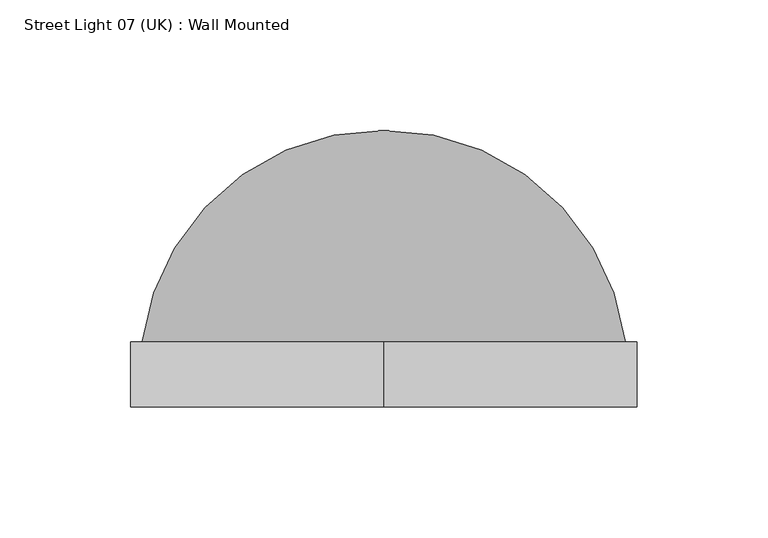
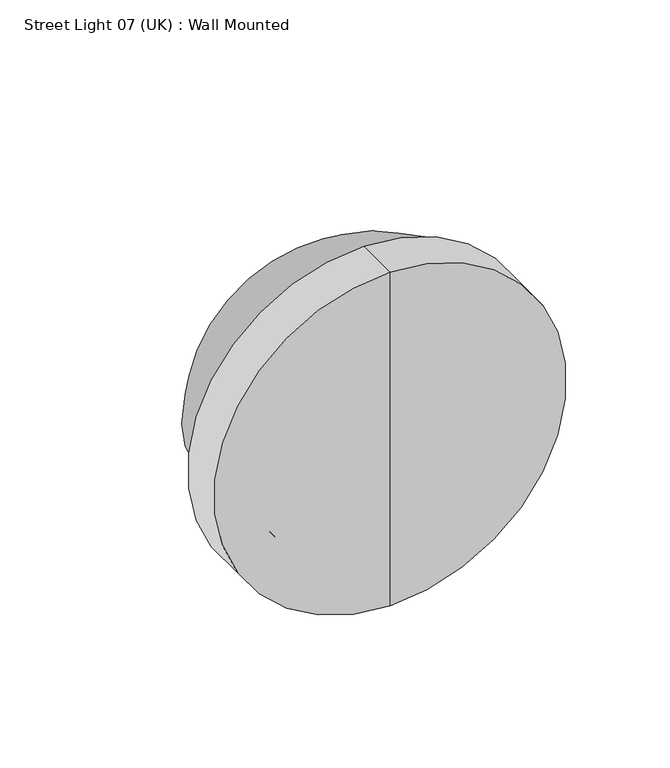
"""IFC4 building model written with IfcOpenShell, lengths in millimetres: light fixture geometry, Street Light 07 (UK) : Wall Mounted."""

from ifc_helpers import new_model, si_unit, point, frame, origin, place, context, project, spatial, polyline, circle_curve, ellipse_curve, trimmed, source, transform, mapped, element, save
from ifc_brep_helpers import plane_surface, cylinder_surface, revolved_surface, advanced_brep


def street_light_07_uk_wall_mounted_de2312fa(model_context):
    return source(origin(), model_context, "Body", "AdvancedBrep", [
        advanced_brep(
        [(211.608148, 100.0, 2278.6607917), (125.0, 175.1695134, 2278.6607917), (125.0, 180.9435974, 2278.6607917), (217.429795, 100.0, 2278.6607917), (38.391852, 100.0, 2278.6607917), (32.570205, 100.0, 2278.6607917)],
        [
            (0, 1, circle_curve(frame((125.7582507, 88.5646846, 2278.6607917), z_axis=(0.0, 0.0, 1.0), x_axis=(0.0, 1.0, 0.0)), 86.608148)),
            (1, 2),
            (2, 3, circle_curve(frame((125.7582507, 88.5646846, 2278.6607917), z_axis=(0.0, 0.0, -1.0), x_axis=(0.0, 1.0, 0.0)), 92.3820245)),
            (3, 0),
            (4, 5),
            (5, 2, circle_curve(frame((124.2417493, 88.5646846, 2278.6607917), z_axis=(0.0, 0.0, -1.0), x_axis=(0.0, 1.0, 0.0)), 92.3820245)),
            (1, 4, circle_curve(frame((124.2417493, 88.5646846, 2278.6607917), z_axis=(0.0, 0.0, 1.0), x_axis=(0.0, 1.0, 0.0)), 86.608148)),
            (0, 4, circle_curve(frame((125.0, 100.0, 2278.6607917), z_axis=(0.0, -1.0, 0.0), x_axis=(1.0, 0.0, 0.0)), 86.608148)),
            (5, 3, circle_curve(frame((125.0, 100.0, 2278.6607917), z_axis=(0.0, 1.0, 0.0), x_axis=(1.0, 0.0, 0.0)), 92.429795)),
        ],
        [
            plane_surface(frame((125.0, -90.0, 2278.6607917), z_axis=(0.0, 0.0, -1.0), x_axis=(1.0, 0.0, 0.0))),
            plane_surface(frame((125.0, -90.0, 2278.6607917), z_axis=(0.0, 0.0, -1.0), x_axis=(-1.0, 0.0, 0.0))),
            revolved_surface(trimmed(ellipse_curve(frame((125.7582507, 88.5646846, 2278.6607917), z_axis=(0.0, 0.0, -1.0), x_axis=(0.0, 1.0, 0.0)), 86.608148, 86.608148), [point((125.0, 175.1695134, 2278.6607917))], [point((211.608148, 100.0, 2278.6607917))], True, "CARTESIAN"), (125.0, -90.0, 2278.6607917), (0.0, 1.0, 0.0)),
            revolved_surface(trimmed(ellipse_curve(frame((125.7582507, 88.5646846, 2278.6607917), z_axis=(0.0, 0.0, 1.0), x_axis=(0.0, 1.0, 0.0)), 92.3820245, 92.3820245), [point((217.429795, 100.0, 2278.6607917))], [point((125.0, 180.9435974, 2278.6607917))], True, "CARTESIAN"), (125.0, -90.0, 2278.6607917), (0.0, 1.0, 0.0)),
            plane_surface(frame((125.0, 100.0, 2278.6607917), z_axis=(0.0, -1.0, 0.0), x_axis=(1.0, 0.0, 0.0))),
        ],
        [
            (0, [[1, 2, 3, 4]]),
            (1, [[5, 6, -2, 7]]),
            (2, [[-1, 8, -7]]),
            (3, [[9, -3, -6]]),
            (4, [[-8, -4, -9, -5]]),
        ],
    ),
        advanced_brep(
        [(125.0, 80.0, 2278.6607917), (125.0, 80.0, 2209.1171623), (125.0, 80.0, 2348.2044211), (125.0, 161.9119127, 2278.6607917)],
        [
            (0, 1),
            (1, 2, circle_curve(frame((125.0, 80.0, 2278.6607917), z_axis=(0.0, -1.0, 0.0), x_axis=(0.0, 0.0, -1.0)), 69.5436294)),
            (2, 0),
            (2, 1, circle_curve(frame((125.0, 80.0, 2278.6607917), z_axis=(0.0, -1.0, 0.0), x_axis=(0.0, 0.0, -1.0)), 69.5436294)),
            (1, 3, circle_curve(frame((125.0, 30.3155672, 2350.6496926), z_axis=(1.0, 0.0, 0.0), x_axis=(0.0, 1.0, 0.0)), 150.0)),
            (3, 2, circle_curve(frame((125.0, 30.3155672, 2206.6718908), z_axis=(1.0, 0.0, 0.0), x_axis=(0.0, 1.0, 0.0)), 150.0)),
        ],
        [
            plane_surface(frame((125.0, 80.0, 2278.6607917), z_axis=(0.0, -1.0, 0.0), x_axis=(0.0, 0.0, -1.0))),
            revolved_surface(trimmed(ellipse_curve(frame((125.0, 30.3155672, 2350.6496926), z_axis=(-1.0, 0.0, 0.0), x_axis=(0.0, 1.0, 0.0)), 150.0, 150.0), [point((125.0, 161.9119127, 2278.6607917))], [point((125.0, 80.0, 2209.1171623))], True, "CARTESIAN"), (125.0, -220.0, 2278.6607917), (0.0, -1.0, 0.0)),
        ],
        [
            (0, [[1, 2, 3]]),
            (0, [[-3, 4, -1]]),
            (1, [[-2, 5, 6]]),
            (1, [[-4, -6, -5]]),
        ],
    ),
        advanced_brep(
        [(125.0, 75.0, 2278.6607917), (125.0, 75.0, 2181.1607917), (125.0, 75.0, 2376.1607917), (125.0, 80.0, 2351.1607917), (125.0, 80.0, 2206.1607917), (125.0, 80.0, 2278.6607917), (125.0, 100.0, 2351.1607917), (125.0, 100.0, 2206.1607917), (125.0, 100.0, 2376.1607917), (125.0, 100.0, 2181.1607917)],
        [
            (0, 1),
            (1, 2, circle_curve(frame((125.0, 75.0, 2278.6607917), z_axis=(0.0, -1.0, 0.0), x_axis=(0.0, 0.0, -1.0)), 97.5)),
            (2, 0),
            (2, 1, circle_curve(frame((125.0, 75.0, 2278.6607917), z_axis=(0.0, -1.0, 0.0), x_axis=(0.0, 0.0, -1.0)), 97.5)),
            (3, 4, circle_curve(frame((125.0, 80.0, 2278.6607917), z_axis=(0.0, 1.0, 0.0), x_axis=(0.0, 0.0, -1.0)), 72.5)),
            (4, 5),
            (5, 3),
            (4, 3, circle_curve(frame((125.0, 80.0, 2278.6607917), z_axis=(0.0, 1.0, 0.0), x_axis=(0.0, 0.0, -1.0)), 72.5)),
            (6, 7, circle_curve(frame((125.0, 100.0, 2278.6607917), z_axis=(0.0, 1.0, 0.0), x_axis=(0.0, 0.0, -1.0)), 72.5)),
            (7, 4),
            (3, 6),
            (7, 6, circle_curve(frame((125.0, 100.0, 2278.6607917), z_axis=(0.0, 1.0, 0.0), x_axis=(0.0, 0.0, -1.0)), 72.5)),
            (8, 9, circle_curve(frame((125.0, 100.0, 2278.6607917), z_axis=(0.0, 1.0, 0.0), x_axis=(0.0, 0.0, -1.0)), 97.5)),
            (9, 7),
            (6, 8),
            (9, 8, circle_curve(frame((125.0, 100.0, 2278.6607917), z_axis=(0.0, 1.0, 0.0), x_axis=(0.0, 0.0, -1.0)), 97.5)),
            (1, 9),
            (8, 2),
        ],
        [
            plane_surface(frame((125.0, 75.0, 2278.6607917), z_axis=(0.0, -1.0, 0.0), x_axis=(0.0, 0.0, -1.0))),
            plane_surface(frame((125.0, 80.0, 2278.6607917), z_axis=(0.0, 1.0, 0.0), x_axis=(0.0, 0.0, -1.0))),
            revolved_surface(polyline([(125.0, 80.0, 2206.1607917), (125.0, 100.0, 2206.1607917)]), (125.0, 0.0, 2278.6607917), (0.0, -1.0, 0.0)),
            plane_surface(frame((125.0, 100.0, 2278.6607917), z_axis=(0.0, 1.0, 0.0), x_axis=(0.0, 0.0, -1.0))),
            cylinder_surface(frame((125.0, 0.0, 2278.6607917), z_axis=(0.0, -1.0, 0.0), x_axis=(0.0, 0.0, -1.0)), 97.5),
        ],
        [
            (0, [[1, 2, 3]]),
            (0, [[-3, 4, -1]]),
            (1, [[5, 6, 7]]),
            (1, [[8, -7, -6]]),
            (2, [[9, 10, -5, 11]]),
            (2, [[12, -11, -8, -10]]),
            (3, [[13, 14, -9, 15]]),
            (3, [[16, -15, -12, -14]]),
            (4, [[-2, 17, -13, 18]]),
            (4, [[-4, -18, -16, -17]]),
        ],
    ),
    ])


if __name__ == "__main__":
    model = new_model("IFC4")
    model_context = context("Model", 3, world=origin())
    ifc_project = project(units=[si_unit("LENGTHUNIT", "METRE", prefix="MILLI")], contexts=[model_context])
    site = spatial("IfcSite", under=ifc_project)
    building = spatial("IfcBuilding", under=site)
    placement = place(None, origin())
    street_light_07_uk_wall_mounted_shape = street_light_07_uk_wall_mounted_de2312fa(model_context)
    element("IfcLightFixture", 1, ObjectType="Street Light 07 (UK) : Wall Mounted", at=placement, inside=building, context=model_context, shape_type="MappedRepresentation", body=[
        mapped(street_light_07_uk_wall_mounted_shape, transform((0.0, 0.0, 0.0), x_axis=(1.0, 0.0, 0.0), y_axis=(0.0, 1.0, 0.0), z_axis=(0.0, 0.0, 1.0))),
    ])
    save(model, "model.ifc")
